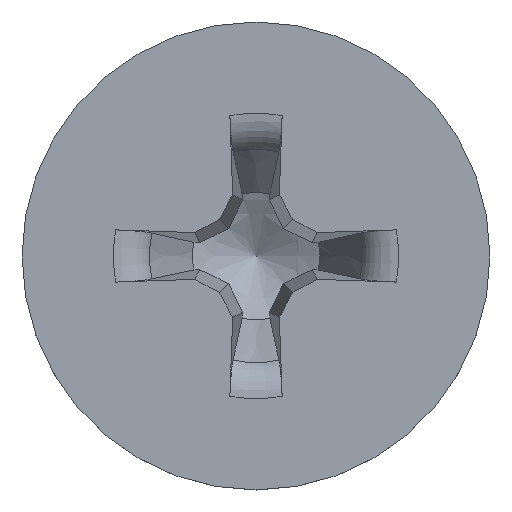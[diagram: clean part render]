
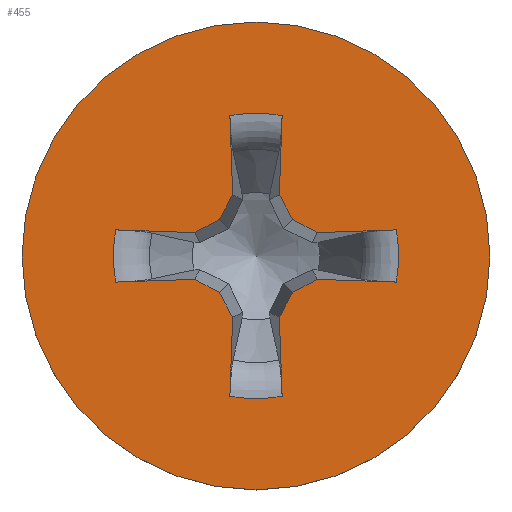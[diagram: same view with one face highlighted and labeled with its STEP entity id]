
A CAD part, top view. The second image highlights one B-rep face of the part: STEP entity #455.
In plain terms, the highlighted planar face has unit normal (0, 0, 1).
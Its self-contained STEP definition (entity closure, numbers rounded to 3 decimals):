
#144=LINE('',#5180,#276);
#145=LINE('',#5185,#277);
#146=LINE('',#5187,#278);
#147=LINE('',#5189,#279);
#148=LINE('',#5191,#280);
#149=LINE('',#5195,#281);
#150=LINE('',#5197,#282);
#151=LINE('',#5199,#283);
#152=LINE('',#5201,#284);
#153=LINE('',#5205,#285);
#154=LINE('',#5207,#286);
#155=LINE('',#5209,#287);
#156=LINE('',#5211,#288);
#157=LINE('',#5215,#289);
#158=LINE('',#5217,#290);
#159=LINE('',#5219,#291);
#276=VECTOR('',#2354,1.);
#277=VECTOR('',#2357,1.);
#278=VECTOR('',#2358,1.);
#279=VECTOR('',#2359,1.);
#280=VECTOR('',#2360,1.);
#281=VECTOR('',#2363,1.);
#282=VECTOR('',#2364,1.);
#283=VECTOR('',#2365,1.);
#284=VECTOR('',#2366,1.);
#285=VECTOR('',#2369,1.);
#286=VECTOR('',#2370,1.);
#287=VECTOR('',#2371,1.);
#288=VECTOR('',#2372,1.);
#289=VECTOR('',#2375,1.);
#290=VECTOR('',#2376,1.);
#291=VECTOR('',#2377,1.);
#409=PLANE('',#2289);
#436=FACE_BOUND('',#746,.T.);
#437=FACE_BOUND('',#747,.T.);
#455=ADVANCED_FACE('',(#436,#437),#409,.F.);
#746=EDGE_LOOP('',(#1134,#1135,#1136,#1137,#1138,#1139,#1140,#1141,#1142,
#1143,#1144,#1145,#1146,#1147,#1148,#1149,#1150,#1151,#1152,#1153));
#747=EDGE_LOOP('',(#1154));
#1134=ORIENTED_EDGE('',*,*,#1984,.F.);
#1135=ORIENTED_EDGE('',*,*,#1985,.T.);
#1136=ORIENTED_EDGE('',*,*,#1986,.F.);
#1137=ORIENTED_EDGE('',*,*,#1987,.F.);
#1138=ORIENTED_EDGE('',*,*,#1988,.F.);
#1139=ORIENTED_EDGE('',*,*,#1989,.F.);
#1140=ORIENTED_EDGE('',*,*,#1990,.T.);
#1141=ORIENTED_EDGE('',*,*,#1991,.F.);
#1142=ORIENTED_EDGE('',*,*,#1992,.F.);
#1143=ORIENTED_EDGE('',*,*,#1993,.F.);
#1144=ORIENTED_EDGE('',*,*,#1994,.F.);
#1145=ORIENTED_EDGE('',*,*,#1995,.T.);
#1146=ORIENTED_EDGE('',*,*,#1996,.F.);
#1147=ORIENTED_EDGE('',*,*,#1997,.F.);
#1148=ORIENTED_EDGE('',*,*,#1998,.F.);
#1149=ORIENTED_EDGE('',*,*,#1999,.F.);
#1150=ORIENTED_EDGE('',*,*,#2000,.T.);
#1151=ORIENTED_EDGE('',*,*,#2001,.F.);
#1152=ORIENTED_EDGE('',*,*,#2002,.F.);
#1153=ORIENTED_EDGE('',*,*,#2003,.F.);
#1154=ORIENTED_EDGE('',*,*,#2004,.F.);
#1785=VERTEX_POINT('',#5181);
#1786=VERTEX_POINT('',#5182);
#1787=VERTEX_POINT('',#5184);
#1788=VERTEX_POINT('',#5186);
#1789=VERTEX_POINT('',#5188);
#1790=VERTEX_POINT('',#5190);
#1791=VERTEX_POINT('',#5192);
#1792=VERTEX_POINT('',#5194);
#1793=VERTEX_POINT('',#5196);
#1794=VERTEX_POINT('',#5198);
#1795=VERTEX_POINT('',#5200);
#1796=VERTEX_POINT('',#5202);
#1797=VERTEX_POINT('',#5204);
#1798=VERTEX_POINT('',#5206);
#1799=VERTEX_POINT('',#5208);
#1800=VERTEX_POINT('',#5210);
#1801=VERTEX_POINT('',#5212);
#1802=VERTEX_POINT('',#5214);
#1803=VERTEX_POINT('',#5216);
#1804=VERTEX_POINT('',#5218);
#1805=VERTEX_POINT('',#5221);
#1984=EDGE_CURVE('',#1785,#1786,#144,.T.);
#1985=EDGE_CURVE('',#1785,#1787,#2256,.T.);
#1986=EDGE_CURVE('',#1788,#1787,#145,.T.);
#1987=EDGE_CURVE('',#1789,#1788,#146,.T.);
#1988=EDGE_CURVE('',#1790,#1789,#147,.T.);
#1989=EDGE_CURVE('',#1791,#1790,#148,.T.);
#1990=EDGE_CURVE('',#1791,#1792,#2257,.T.);
#1991=EDGE_CURVE('',#1793,#1792,#149,.T.);
#1992=EDGE_CURVE('',#1794,#1793,#150,.T.);
#1993=EDGE_CURVE('',#1795,#1794,#151,.T.);
#1994=EDGE_CURVE('',#1796,#1795,#152,.T.);
#1995=EDGE_CURVE('',#1796,#1797,#2258,.T.);
#1996=EDGE_CURVE('',#1798,#1797,#153,.T.);
#1997=EDGE_CURVE('',#1799,#1798,#154,.T.);
#1998=EDGE_CURVE('',#1800,#1799,#155,.T.);
#1999=EDGE_CURVE('',#1801,#1800,#156,.T.);
#2000=EDGE_CURVE('',#1801,#1802,#2259,.T.);
#2001=EDGE_CURVE('',#1803,#1802,#157,.T.);
#2002=EDGE_CURVE('',#1804,#1803,#158,.T.);
#2003=EDGE_CURVE('',#1786,#1804,#159,.T.);
#2004=EDGE_CURVE('',#1805,#1805,#2260,.T.);
#2256=CIRCLE('',#2284,4.271);
#2257=CIRCLE('',#2285,4.271);
#2258=CIRCLE('',#2286,4.271);
#2259=CIRCLE('',#2287,4.271);
#2260=CIRCLE('',#2288,7.);
#2284=AXIS2_PLACEMENT_3D('',#5183,#2355,#2356);
#2285=AXIS2_PLACEMENT_3D('',#5193,#2361,#2362);
#2286=AXIS2_PLACEMENT_3D('',#5203,#2367,#2368);
#2287=AXIS2_PLACEMENT_3D('',#5213,#2373,#2374);
#2288=AXIS2_PLACEMENT_3D('',#5220,#2378,#2379);
#2289=AXIS2_PLACEMENT_3D('',#5222,#2380,#2381);
#2354=DIRECTION('',(-0.999,-0.035,0.));
#2355=DIRECTION('',(0.,0.,-1.));
#2356=DIRECTION('',(-1.,0.,0.));
#2357=DIRECTION('',(0.999,-0.035,0.));
#2358=DIRECTION('',(0.883,0.469,0.));
#2359=DIRECTION('',(0.469,0.883,0.));
#2360=DIRECTION('',(-0.035,0.999,0.));
#2361=DIRECTION('',(0.,0.,-1.));
#2362=DIRECTION('',(-1.,0.,0.));
#2363=DIRECTION('',(-0.035,-0.999,0.));
#2364=DIRECTION('',(0.469,-0.883,0.));
#2365=DIRECTION('',(0.883,-0.469,0.));
#2366=DIRECTION('',(0.999,0.035,0.));
#2367=DIRECTION('',(0.,0.,-1.));
#2368=DIRECTION('',(-1.,0.,0.));
#2369=DIRECTION('',(-0.999,0.035,0.));
#2370=DIRECTION('',(-0.883,-0.469,0.));
#2371=DIRECTION('',(-0.469,-0.883,0.));
#2372=DIRECTION('',(0.035,-0.999,0.));
#2373=DIRECTION('',(0.,0.,-1.));
#2374=DIRECTION('',(-1.,0.,0.));
#2375=DIRECTION('',(0.035,0.999,0.));
#2376=DIRECTION('',(-0.469,0.883,0.));
#2377=DIRECTION('',(-0.883,0.469,0.));
#2378=DIRECTION('',(0.,0.,-1.));
#2379=DIRECTION('',(-1.,0.,0.));
#2380=DIRECTION('',(0.,0.,-1.));
#2381=DIRECTION('',(-1.,0.,0.));
#5180=CARTESIAN_POINT('',(-0.022,0.634,5.16));
#5181=CARTESIAN_POINT('',(4.199,0.781,5.16));
#5182=CARTESIAN_POINT('',(1.837,0.699,5.16));
#5183=CARTESIAN_POINT('',(0.,0.,5.16));
#5184=CARTESIAN_POINT('',(4.199,-0.781,5.16));
#5185=CARTESIAN_POINT('',(-0.022,-0.634,5.16));
#5186=CARTESIAN_POINT('',(1.837,-0.699,5.16));
#5187=CARTESIAN_POINT('',(0.695,-1.306,5.16));
#5188=CARTESIAN_POINT('',(1.094,-1.094,5.16));
#5189=CARTESIAN_POINT('',(1.306,-0.695,5.16));
#5190=CARTESIAN_POINT('',(0.699,-1.837,5.16));
#5191=CARTESIAN_POINT('',(0.634,0.022,5.16));
#5192=CARTESIAN_POINT('',(0.781,-4.199,5.16));
#5193=CARTESIAN_POINT('',(0.,0.,5.16));
#5194=CARTESIAN_POINT('',(-0.781,-4.199,5.16));
#5195=CARTESIAN_POINT('',(-0.634,0.022,5.16));
#5196=CARTESIAN_POINT('',(-0.699,-1.837,5.16));
#5197=CARTESIAN_POINT('',(-1.306,-0.695,5.16));
#5198=CARTESIAN_POINT('',(-1.094,-1.094,5.16));
#5199=CARTESIAN_POINT('',(-0.695,-1.306,5.16));
#5200=CARTESIAN_POINT('',(-1.837,-0.699,5.16));
#5201=CARTESIAN_POINT('',(0.022,-0.634,5.16));
#5202=CARTESIAN_POINT('',(-4.199,-0.781,5.16));
#5203=CARTESIAN_POINT('',(0.,0.,5.16));
#5204=CARTESIAN_POINT('',(-4.199,0.781,5.16));
#5205=CARTESIAN_POINT('',(0.022,0.634,5.16));
#5206=CARTESIAN_POINT('',(-1.837,0.699,5.16));
#5207=CARTESIAN_POINT('',(-0.695,1.306,5.16));
#5208=CARTESIAN_POINT('',(-1.094,1.094,5.16));
#5209=CARTESIAN_POINT('',(-1.306,0.695,5.16));
#5210=CARTESIAN_POINT('',(-0.699,1.837,5.16));
#5211=CARTESIAN_POINT('',(-0.634,-0.022,5.16));
#5212=CARTESIAN_POINT('',(-0.781,4.199,5.16));
#5213=CARTESIAN_POINT('',(0.,0.,5.16));
#5214=CARTESIAN_POINT('',(0.781,4.199,5.16));
#5215=CARTESIAN_POINT('',(0.634,-0.022,5.16));
#5216=CARTESIAN_POINT('',(0.699,1.837,5.16));
#5217=CARTESIAN_POINT('',(1.306,0.695,5.16));
#5218=CARTESIAN_POINT('',(1.094,1.094,5.16));
#5219=CARTESIAN_POINT('',(0.695,1.306,5.16));
#5220=CARTESIAN_POINT('',(0.,0.,5.16));
#5221=CARTESIAN_POINT('',(-7.,0.,5.16));
#5222=CARTESIAN_POINT('',(0.,0.,5.16));
